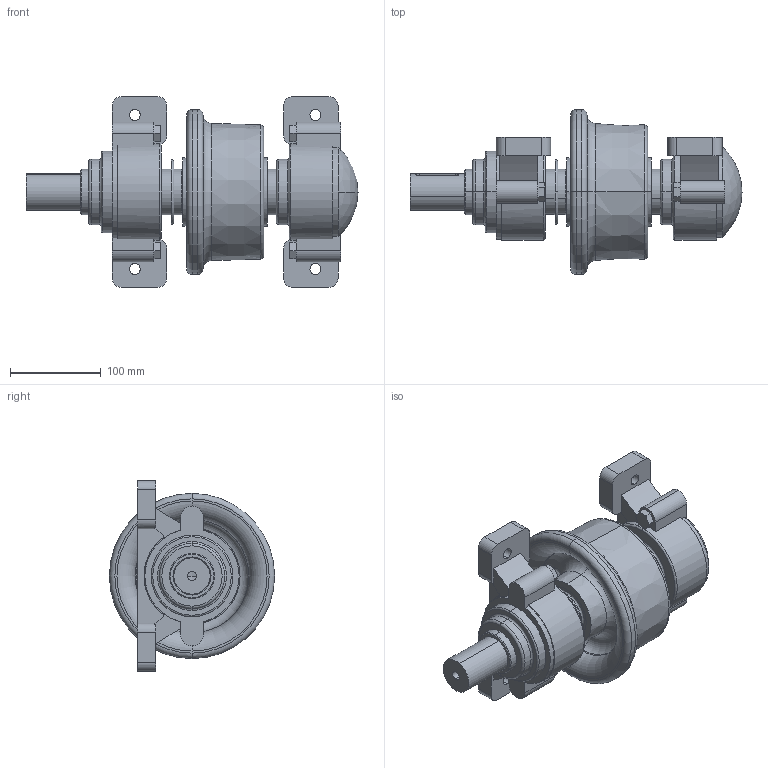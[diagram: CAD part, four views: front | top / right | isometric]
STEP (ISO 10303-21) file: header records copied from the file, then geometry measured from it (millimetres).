
FILE_DESCRIPTION (( 'STEP AP214' ), '1' );
FILE_NAME ('Roue 150FM Moto 97-3.STEP', '2022-01-05T15:17:06', ( '' ), ( '' ), 'SwSTEP 2.0', 'SolidWorks 2021', '' );
FILE_SCHEMA (( 'AUTOMOTIVE_DESIGN' ));
Length unit declared in the file: millimetre
Products named in the file (1): Roue 150FM Moto 97-3
Bounding box: 366 x 182 x 210 mm (x, y, z)
Surface area: 292608.5 mm2 (no closed solid volume)
Topology: 0 solids, 8 shells, 244 faces, 652 edges, 417 vertices
Faces by surface type: plane 96, cylinder 82, torus 34, cone 18, bspline 12, sphere 2
Entity records: 11154 total; most frequent: CARTESIAN_POINT 2214, DIRECTION 1396, ORIENTED_EDGE 1240, EDGE_CURVE 650, AXIS2_PLACEMENT_3D 539, VERTEX_POINT 417, LINE 318, VECTOR 318
